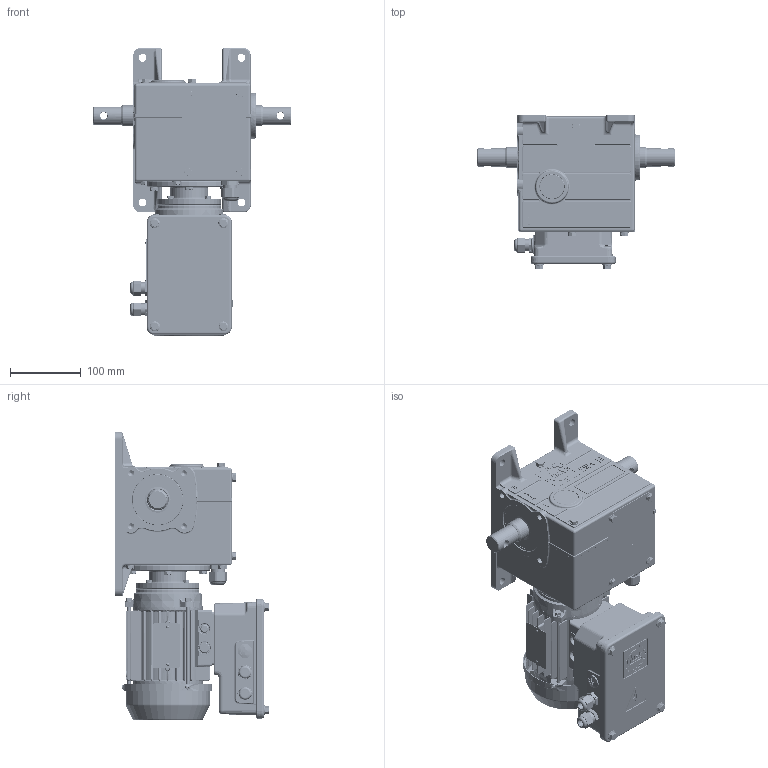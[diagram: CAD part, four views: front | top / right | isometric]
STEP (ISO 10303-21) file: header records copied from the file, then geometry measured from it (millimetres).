
FILE_DESCRIPTION (( 'STEP AP214' ), '1' );
FILE_NAME ('010205931_EWA_10_3D__DE_12210.0903.0651.STEP', '2021-02-23T12:52:35', ( '' ), ( '' ), 'SwSTEP 2.0', 'SolidWorks 2020', '' );
FILE_SCHEMA (( 'AUTOMOTIVE_DESIGN' ));
Length unit declared in the file: millimetre
Products named in the file (44): 010200597_Normteil_Kaufteil_3D__DE_DIN EN 24017 - M5 x 16-N; 010205365_SPL_30_3D__DE; 010193642_Normteil_Kaufteil_3D-Modell_DE_10193642_Einbau; Scheibe_10002061; 010193641_EWA_3D-Modell_DE_10193641; Schraube_10018291; 010205369_SPL_30_3D__DE_ohne Inhalt; 010205366_SPL_30_3D__DE; Welle_10000647; Schraube_10002078; Deckel_10000048; 010194806_EWA_10_3D-Modell_DE_90000.0002.5714_10194806_ohne Inhalt; Schraube_10170222; 010205490_SPL_30_3D__DE; Dichtelement_10005546; 010203806_SPL_30_3D__DE; 010203807_SPL_30_3D__DE; Schraube_10014320; Erdung_ZN00006870_304_Elektrot^010193642_Normteil_Kaufteil_3D-Modell_DE_10193642; 010193645_Normteil_Kaufteil_3D-Modell_DE_10193645; 010194228_Normteil_Kaufteil_3D-Modell_DE_10194228; Elektroteil_10014336; 010205931_EWA_10_3D__DE_12210.0903.0651; 010193006_EWA_10_3D-Modell_DE_10193006_END 20-90000.0002.6299 m.s.B.; Schraube_10042283; 010193656_Normteil_Kaufteil_3D-Modell_DE_10193656_DIN 6921 - M6 x 16 x 16-N; 010183301__3D-Teil_DE_90000.0002.5790_10183301; Kennzeichnung_10018531; 010200577_EWA_10_3D__DE; Wälzlager_10001868; 010197604_EWA_3D-Modell_DE_10197604; Kennzeichnung_10001854; Dichtelement_10001203; 010193651_Normteil_Kaufteil_3D-Modell_DE_10193651_Washer DIN 125 - A 4.3; 010191515_Normteil_Kaufteil_3D-Modell_DE_10191515; Elektroteil_10001639; 010200576_EWA_10_3D__DE_ohne Inhalt; 010193646_Normteil_Kaufteil_3D-Modell_DE_10193646_DIN EN ISO 7045 - M4 x 8 - Z - 8C; Elektroteil_10028709; 010205451_SPL_30_3D__DE
Assembly tree (84 placements, depth 5):
  010205931_EWA_10_3D__DE_12210.0903.0651
    010194806_EWA_10_3D-Modell_DE_90000.0002.5714_10194806_ohne Inhalt
      010193006_EWA_10_3D-Modell_DE_10193006_END 20-90000.0002.6299 m.s.B.
      Deckel_10000048
      Schraube_10018291  x4
      Elektroteil_10001639
      Dichtelement_10001203
      Dichtelement_10005546
      Elektroteil_10028709
      Scheibe_10002061  x8
      010191515_Normteil_Kaufteil_3D-Modell_DE_10191515  x4
      010183301__3D-Teil_DE_90000.0002.5790_10183301
      Wälzlager_10001868
      Welle_10000647
    010205369_SPL_30_3D__DE_ohne Inhalt
      010203807_SPL_30_3D__DE
        010203806_SPL_30_3D__DE
      Schraube_10042283  x4
      010205365_SPL_30_3D__DE
      Elektroteil_10014336  x2
      010205490_SPL_30_3D__DE
      010205366_SPL_30_3D__DE
      Schraube_10170222  x4
      010193656_Normteil_Kaufteil_3D-Modell_DE_10193656_DIN 6921 - M6 x 16 x 16-N  x4
      Kennzeichnung_10001854
      010205451_SPL_30_3D__DE
      010193641_EWA_3D-Modell_DE_10193641
        010193642_Normteil_Kaufteil_3D-Modell_DE_10193642_Einbau
          010193645_Normteil_Kaufteil_3D-Modell_DE_10193645
          Erdung_ZN00006870_304_Elektrot^010193642_Normteil_Kaufteil_3D-Modell_DE_10193642
        010193646_Normteil_Kaufteil_3D-Modell_DE_10193646_DIN EN ISO 7045 - M4 x 8 - Z - 8C
        010194228_Normteil_Kaufteil_3D-Modell_DE_10194228
        010193651_Normteil_Kaufteil_3D-Modell_DE_10193651_Washer DIN 125 - A 4.3
        010193642_Normteil_Kaufteil_3D-Modell_DE_10193642_Einbau
          010193645_Normteil_Kaufteil_3D-Modell_DE_10193645
          Erdung_ZN00006870_304_Elektrot^010193642_Normteil_Kaufteil_3D-Modell_DE_10193642
      010193641_EWA_3D-Modell_DE_10193641
        010193642_Normteil_Kaufteil_3D-Modell_DE_10193642_Einbau
          010193645_Normteil_Kaufteil_3D-Modell_DE_10193645
          Erdung_ZN00006870_304_Elektrot^010193642_Normteil_Kaufteil_3D-Modell_DE_10193642
        010193646_Normteil_Kaufteil_3D-Modell_DE_10193646_DIN EN ISO 7045 - M4 x 8 - Z - 8C
        010194228_Normteil_Kaufteil_3D-Modell_DE_10194228
        010193651_Normteil_Kaufteil_3D-Modell_DE_10193651_Washer DIN 125 - A 4.3
        010193642_Normteil_Kaufteil_3D-Modell_DE_10193642_Einbau
          010193645_Normteil_Kaufteil_3D-Modell_DE_10193645
          Erdung_ZN00006870_304_Elektrot^010193642_Normteil_Kaufteil_3D-Modell_DE_10193642
      Elektroteil_10028709
    010200576_EWA_10_3D__DE_ohne Inhalt
      010200577_EWA_10_3D__DE
      010197604_EWA_3D-Modell_DE_10197604
      010200597_Normteil_Kaufteil_3D__DE_DIN EN 24017 - M5 x 16-N  x4
    Schraube_10014320
    Schraube_10002078  x4
    Scheibe_10002061
    Kennzeichnung_10001854
    Kennzeichnung_10018531
Bounding box: 280 x 217.39 x 408 mm (x, y, z)
Volume: 2239064.5 mm3; surface area: 967278 mm2
Topology: 111 solids, 114 shells, 10032 faces, 25556 edges, 15994 vertices
Faces by surface type: plane 4006, bspline 2182, cylinder 1946, cone 917, torus 765, sphere 216
Entity records: 473651 total; most frequent: CARTESIAN_POINT 246847, ORIENTED_EDGE 38796, DIRECTION 31716, EDGE_CURVE 19398, VERTEX_POINT 12190, AXIS2_PLACEMENT_3D 11185, LINE 9346, VECTOR 9346
